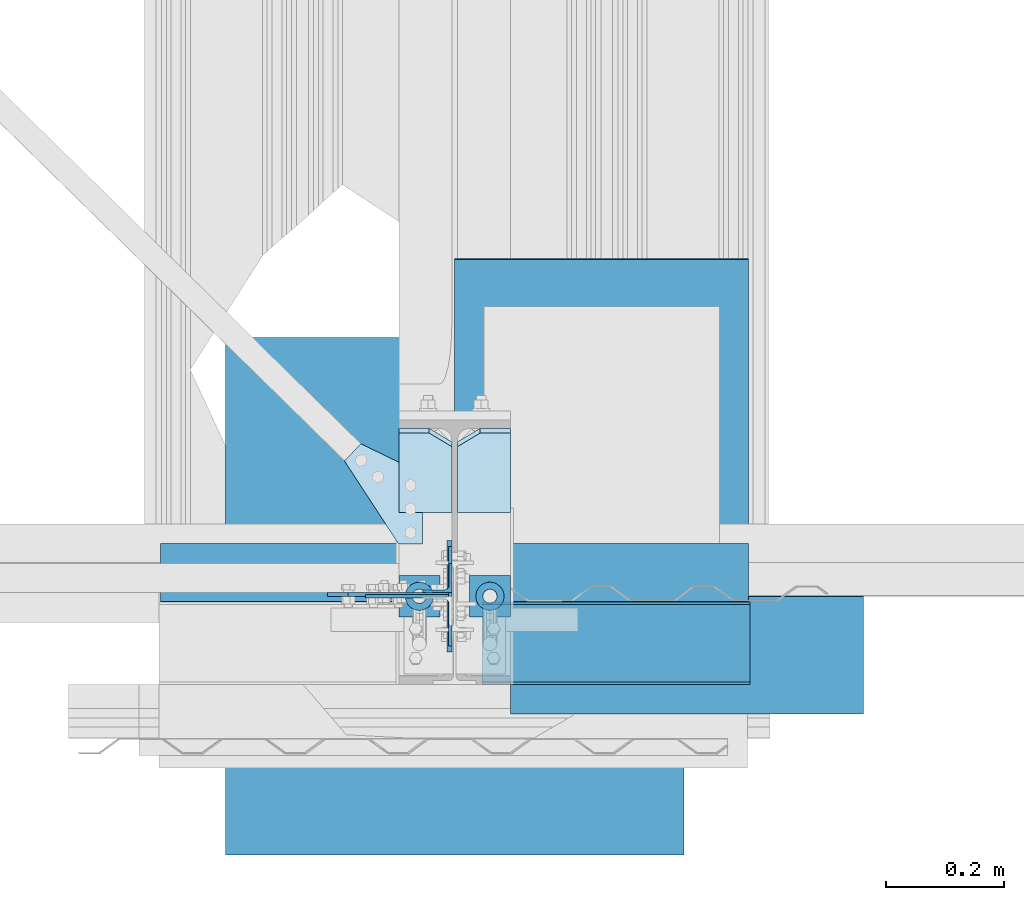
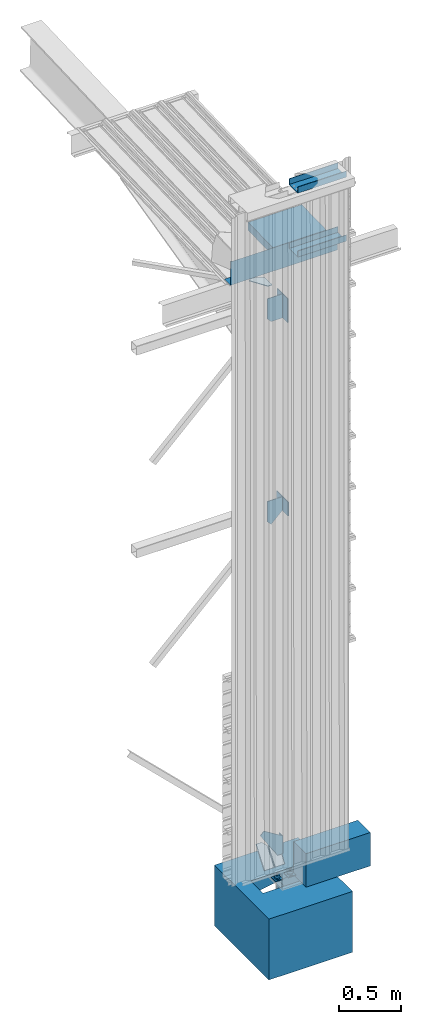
# One storey, part 3 of 21: 12 beams, 8 plates, 1 slab, 4 openings, 1 element without a shape of its own.
"""IFC2X3 building model written with IfcOpenShell, lengths in millimetres."""

import ifcopenshell
import ifcopenshell.guid

model = None  # the IFC model being written
_history = None  # IfcOwnerHistory: only IFC2X3 demands one
_inside = {}  # id of a spatial element -> (the spatial element, [elements in it])
_under = {}  # id of a project, library or spatial element -> (it, [spatial elements below it])
_declared = {}  # id of a project -> (the project, [libraries it declares])
_typed = {}  # id of a type object -> (the type object, [elements of that type])
_made_of = {}  # id of a material, layer set ... -> (it, [elements and type objects made of it])


def new_model(schema):
    """Start an empty IFC model of exactly this schema.

    Asked for "IFC4X3", IfcOpenShell would pick the latest addendum, in which some entities
    have other attributes; the version numbers below select the first issue.
    IFC2X3 requires an IfcOwnerHistory on every rooted entity: one is made here for all.
    """
    global model, _history
    if schema == "IFC4X3":
        model = ifcopenshell.file(schema_version=(4, 3, 0, 0))
    else:
        model = ifcopenshell.file(schema=schema)
    _inside.clear()
    _under.clear()
    _declared.clear()
    _typed.clear()
    _made_of.clear()
    _history = None
    if model.schema == "IFC2X3":
        org = make("IfcOrganization", Name="unknown")
        user = make(
            "IfcPersonAndOrganization",
            ThePerson=make("IfcPerson", FamilyName="unknown"),
            TheOrganization=org,
        )
        app = make(
            "IfcApplication",
            ApplicationDeveloper=org,
            Version="unknown",
            ApplicationFullName="unknown",
            ApplicationIdentifier="unknown",
        )
        _history = make(
            "IfcOwnerHistory",
            OwningUser=user,
            OwningApplication=app,
            ChangeAction="ADDED",
            CreationDate=0,
        )
    return model


def make(cls, **values):
    """One entity of the class cls with the attributes given. An attribute that is None is left unset."""
    return model.create_entity(
        cls, **{name: value for name, value in values.items() if value is not None}
    )


def rooted(cls, **values):
    """An entity with a GlobalId (a new one), such as an element, a storey or a relation."""
    return make(cls, GlobalId=ifcopenshell.guid.new(), OwnerHistory=_history, **values)


def si_unit(unit_type, name, prefix=None):
    """IfcSIUnit, for example si_unit("LENGTHUNIT", "METRE", prefix="MILLI")."""
    return make("IfcSIUnit", UnitType=unit_type, Prefix=prefix, Name=name)


def assignment(units):
    """IfcUnitAssignment: the units of a project."""
    return None if units is None else make("IfcUnitAssignment", Units=units)


def point(xyz):
    """IfcCartesianPoint."""
    return None if xyz is None else make("IfcCartesianPoint", Coordinates=xyz)


def direction(xyz):
    """IfcDirection."""
    return None if xyz is None else make("IfcDirection", DirectionRatios=xyz)


def frame(location, z_axis=None, x_axis=None):
    """IfcAxis2Placement3D, a coordinate frame: its origin and axes. An axis left out is left unset."""
    return make(
        "IfcAxis2Placement3D",
        Location=point(location),
        Axis=direction(z_axis),
        RefDirection=direction(x_axis),
    )


def frame_2d(location, x_axis=None):
    """IfcAxis2Placement2D, a coordinate frame in the plane: its origin and x axis."""
    return make(
        "IfcAxis2Placement2D", Location=point(location), RefDirection=direction(x_axis)
    )


def origin_with_axes():
    """The frame at (0, 0, 0) with the z axis (0, 0, 1) and the x axis (1, 0, 0) written out."""
    return frame((0.0, 0.0, 0.0), z_axis=(0.0, 0.0, 1.0), x_axis=(1.0, 0.0, 0.0))


def origin_2d_with_axis():
    """The frame at (0, 0) in the plane with the x axis (1, 0) written out."""
    return frame_2d((0.0, 0.0), x_axis=(1.0, 0.0))


def place(relative_to, where):
    """IfcLocalPlacement: puts the frame where relative to a parent placement (None: the world)."""
    return make(
        "IfcLocalPlacement", PlacementRelTo=relative_to, RelativePlacement=where
    )


def context(
    kind, dimensions, precision=None, world=None, true_north=None, identifier=None
):
    """IfcGeometricRepresentationContext, for example the 3D "Model" context."""
    return make(
        "IfcGeometricRepresentationContext",
        ContextIdentifier=identifier,
        ContextType=kind,
        CoordinateSpaceDimension=dimensions,
        Precision=precision,
        WorldCoordinateSystem=world,
        TrueNorth=true_north,
    )


def project(units=None, contexts=None):
    """IfcProject with its units and contexts."""
    return rooted(
        "IfcProject",
        Name="project",
        RepresentationContexts=contexts,
        UnitsInContext=assignment(units),
    )


def spatial(cls, under=None, at=None, **own):
    """A site, building, storey or space (cls), placed at a placement, below another one or the project."""
    s = rooted(cls, ObjectPlacement=at, **own)
    if under is not None:
        _under.setdefault(under.id(), (under, []))[1].append(s)
    return s


def polyline(points):
    """IfcPolyline through the points."""
    return make("IfcPolyline", Points=[point(p) for p in points])


def profile(cls, at=None, kind="AREA", **sizes):
    """A parametric profile (cls). Its sizes go by their IFC names, for example OverallWidth=200.0."""
    return make(cls, ProfileType=kind, Position=at, **sizes)


def rectangle(**sizes):
    """IfcRectangleProfileDef."""
    return profile("IfcRectangleProfileDef", **sizes)


def hollow_circle(**sizes):
    """IfcCircleHollowProfileDef."""
    return profile("IfcCircleHollowProfileDef", **sizes)


def l_section(**sizes):
    """IfcLShapeProfileDef."""
    return profile("IfcLShapeProfileDef", **sizes)


def u_section(**sizes):
    """IfcUShapeProfileDef."""
    return profile("IfcUShapeProfileDef", **sizes)


def outline(outer, holes=None, kind="AREA"):
    """IfcArbitraryClosedProfileDef: a profile drawn as a closed curve; with holes, ...WithVoids."""
    if holes is None:
        return make("IfcArbitraryClosedProfileDef", ProfileType=kind, OuterCurve=outer)
    return make(
        "IfcArbitraryProfileDefWithVoids",
        ProfileType=kind,
        OuterCurve=outer,
        InnerCurves=holes,
    )


def extrude(swept, where, along, depth):
    """IfcExtrudedAreaSolid: the profile swept, set in the frame where, extruded along a direction by depth."""
    return make(
        "IfcExtrudedAreaSolid",
        SweptArea=swept,
        Position=where,
        ExtrudedDirection=direction(along),
        Depth=depth,
    )


def clip(a, b, op="DIFFERENCE"):
    """IfcBooleanClippingResult: the solid a cut by the half space b."""
    return make(
        "IfcBooleanClippingResult", Operator=op, FirstOperand=a, SecondOperand=b
    )


def halfspace(plane, agree):
    """IfcHalfSpaceSolid: all space on one side of the plane z = 0 of the frame plane."""
    return make(
        "IfcHalfSpaceSolid",
        BaseSurface=make("IfcPlane", Position=plane),
        AgreementFlag=agree,
    )


def faces_of(points, faces, orient=None, outer=None):
    """IfcFace entities. A face is a list of loops; a loop is a list of indices into points, from 0.

    orient and outer hold one flag for each loop. By default every Orientation is true, the
    first loop of a face is its IfcFaceOuterBound and the others are IfcFaceBound.
    """
    made = []
    for i, loops in enumerate(faces):
        bounds = []
        for j, loop in enumerate(loops):
            is_outer = j == 0 if outer is None else outer[i][j]
            bounds.append(
                make(
                    "IfcFaceOuterBound" if is_outer else "IfcFaceBound",
                    Bound=make("IfcPolyLoop", Polygon=[points[k] for k in loop]),
                    Orientation=True if orient is None else orient[i][j],
                )
            )
        made.append(make("IfcFace", Bounds=bounds))
    return made


def faceted_brep(points, faces, orient=None, outer=None, voids=None):
    """IfcFacetedBrep: a solid bounded by flat faces; with voids (closed shells), ...WithVoids."""
    shared = [point(p) for p in points]
    hull = make("IfcClosedShell", CfsFaces=faces_of(shared, faces, orient, outer))
    if voids is None:
        return make("IfcFacetedBrep", Outer=hull)
    return make(
        "IfcFacetedBrepWithVoids",
        Outer=hull,
        Voids=[
            make(cls, CfsFaces=faces_of(shared, fs, o, b)) for cls, fs, o, b in voids
        ],
    )


def shape(context_of_items, identifier, shape_type, items):
    """IfcShapeRepresentation: the items that make up one representation, for example the "Body"."""
    return make(
        "IfcShapeRepresentation",
        ContextOfItems=context_of_items,
        RepresentationIdentifier=identifier,
        RepresentationType=shape_type,
        Items=items,
    )


def material(Name=None, Category=None):
    """IfcMaterial."""
    return make("IfcMaterial", Name=Name, Category=Category)


def layer(
    of_material, thickness, ventilated=None, Name=None, Category=None, Priority=None
):
    """IfcMaterialLayer: one layer of a wall or slab, of a material (None: an air gap)."""
    return make(
        "IfcMaterialLayer",
        Material=of_material,
        LayerThickness=thickness,
        IsVentilated=ventilated,
        Name=Name,
        Category=Category,
        Priority=Priority,
    )


def layer_set(layers, Name=None):
    """IfcMaterialLayerSet."""
    return make("IfcMaterialLayerSet", MaterialLayers=layers, LayerSetName=Name)


def layer_usage(for_layer_set, set_direction, sense, offset, extent=None):
    """IfcMaterialLayerSetUsage: how a layer set lies in its element."""
    return make(
        "IfcMaterialLayerSetUsage",
        ForLayerSet=for_layer_set,
        LayerSetDirection=set_direction,
        DirectionSense=sense,
        OffsetFromReferenceLine=offset,
        ReferenceExtent=extent,
    )


def made_of(thing, what):
    """Note that an element or type object is made of a material, layer set ...; save() writes the relation."""
    if what is not None:
        _made_of.setdefault(what.id(), (what, []))[1].append(thing)
    return thing


def type_object(cls, material=None, **own):
    """A type object (cls), such as IfcWallType, which elements share."""
    return made_of(rooted(cls, **own), material)


def element(
    cls,
    number,
    at=None,
    inside=None,
    cuts=None,
    type_object=None,
    material=None,
    context=None,
    identifier="Body",
    shape_type=None,
    held_by="IfcProductDefinitionShape",
    body=None,
    shapes=None,
    **own,
):
    """One element of the class cls, such as IfcWall. Its Tag is "e" and its number.

    at: its placement. inside: the storey or other place that contains it. cuts: it is an
    opening in that element (IfcRelVoidsElement). A single representation is given by context,
    identifier, shape_type and body (its items); several are given by shapes. held_by: the class
    of the entity that holds the representations. save() writes the other relations.
    """
    e = rooted(cls, Tag="e%d" % number, ObjectPlacement=at, **own)
    if body is not None:
        shapes = [shape(context, identifier, shape_type, body)]
    if shapes is not None:
        e.Representation = make(held_by, Representations=shapes)
    if inside is not None:
        _inside.setdefault(inside.id(), (inside, []))[1].append(e)
    if cuts is not None:
        rooted(
            "IfcRelVoidsElement", RelatingBuildingElement=cuts, RelatedOpeningElement=e
        )
    if type_object is not None:
        _typed.setdefault(type_object.id(), (type_object, []))[1].append(e)
    return made_of(e, material)


def aggregate(whole, parts):
    """IfcRelAggregates: a whole, such as a stair, and the parts it consists of."""
    return rooted("IfcRelAggregates", RelatingObject=whole, RelatedObjects=parts)


def save(model, path):
    """Write the relations noted so far, then the file.

    IfcRelAggregates (storeys below a building ...), IfcRelContainedInSpatialStructure (elements
    in a storey), IfcRelDefinesByType, IfcRelAssociatesMaterial and IfcRelDeclares: one each for
    every whole, place, type object, material and project.
    """
    for whole, parts in _under.values():
        aggregate(whole, parts)
    for where, things in _inside.values():
        rooted(
            "IfcRelContainedInSpatialStructure",
            RelatedElements=things,
            RelatingStructure=where,
        )
    for kind, things in _typed.values():
        rooted("IfcRelDefinesByType", RelatedObjects=things, RelatingType=kind)
    for what, things in _made_of.values():
        rooted("IfcRelAssociatesMaterial", RelatedObjects=things, RelatingMaterial=what)
    for by, libraries in _declared.values():
        rooted("IfcRelDeclares", RelatingContext=by, RelatedDefinitions=libraries)
    model.write(path)


model = new_model("IFC2X3")

# Units and contexts
model_context_1 = context("Model", 3, precision=1e-05, world=origin_with_axes(), identifier="Body")
model_context_2 = context("Model", 3, precision=1e-05, world=origin_with_axes())
ifc_project = project(units=[si_unit("LENGTHUNIT", "METRE", prefix="MILLI"), si_unit("AREAUNIT", "SQUARE_METRE"), si_unit("VOLUMEUNIT", "CUBIC_METRE"), si_unit("MASSUNIT", "GRAM", prefix="KILO"), si_unit("TIMEUNIT", "SECOND"), si_unit("PLANEANGLEUNIT", "RADIAN"), si_unit("SOLIDANGLEUNIT", "STERADIAN"), si_unit("THERMODYNAMICTEMPERATUREUNIT", "DEGREE_CELSIUS"), si_unit("LUMINOUSINTENSITYUNIT", "LUMEN")], contexts=[model_context_1, model_context_2])

# Site, building, storey
site_placement = place(None, origin_with_axes())
site = spatial("IfcSite", under=ifc_project, at=site_placement, Name="Undefined", CompositionType="ELEMENT")
building_placement = place(site_placement, origin_with_axes())
building = spatial("IfcBuilding", under=site, at=building_placement, Name="Undefined", CompositionType="ELEMENT")
storey_placement = place(building_placement, origin_with_axes())
storey = spatial("IfcBuildingStorey", under=building, at=storey_placement, Name="Undefined", CompositionType="ELEMENT")

# Beams
ifc_material_1 = material(Name="STEEL/S235JR")
beam_type_1 = type_object("IfcBeamType", Name="UPF-140*60*4", PredefinedType="NOTDEFINED")
beam_1_placement = place(storey_placement, frame((-2.3513294, -154.97824, 5929.55), z_axis=(4.4408925e-19, 1.0, 3.1900003e-05), x_axis=(1.0, 0.0, 0.0)))
element("IfcBeam", 1, at=beam_1_placement, inside=storey, type_object=beam_type_1, material=ifc_material_1, Name="lisseBasse", ObjectType="UPF-140*60*4", context=model_context_1, shape_type="Clipping", body=[
    clip(extrude(u_section(Depth=140.0, FlangeWidth=60.0, WebThickness=4.0, FlangeThickness=4.0, at=origin_2d_with_axis()), frame((504.69995, 0.0, 0.0), z_axis=(-1.0, 0.0, 4.8148249e-35), x_axis=(0.0, -1.0, 0.0)), (0.0, 0.0, 1.0), 504.69995), halfspace(frame((48.849949, -30.0, -70.0), z_axis=(-1.0, 0.0, 4.8148249e-35), x_axis=(0.0, 1.0, 0.0)), False)),
])
beam_2_placement = place(storey_placement, frame((-2.3499997, -155.00095, 6560.0), z_axis=(4.4408925e-19, 1.0, 3.1900003e-05), x_axis=(1.0, 0.0, 0.0)))
element("IfcBeam", 2, at=beam_2_placement, inside=storey, type_object=beam_type_1, material=ifc_material_1, Name="lisseBasse", ObjectType="UPF-140*60*4", context=model_context_1, shape_type="Clipping", body=[
    clip(extrude(u_section(Depth=140.0, FlangeWidth=60.0, WebThickness=4.0, FlangeThickness=4.0, at=origin_2d_with_axis()), frame((504.7, -9.094947e-13, 1.9440337e-29), z_axis=(-1.0, 0.0, 4.8148249e-35), x_axis=(0.0, -1.0, 0.0)), (0.0, 0.0, 1.0), 504.7), halfspace(frame((48.85, -30.0, -70.0), z_axis=(-1.0, 0.0, 4.8148249e-35), x_axis=(0.0, 1.0, 0.0)), False)),
])

# Beam, opening
beam_type_2 = type_object("IfcBeamType", Name="500*80", PredefinedType="NOTDEFINED")
beam_3_placement = place(storey_placement, frame((250.0, 498.17077, 5783.1922), z_axis=(-1.4154012e-14, 0.023564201, -0.99972233), x_axis=(-3.4434238e-16, -0.99972233, -0.023564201)))
beam_3 = element("IfcBeam", 3, at=beam_3_placement, inside=storey, type_object=beam_type_2, material=ifc_material_1, Name="isolant", ObjectType="500*80", context=model_context_1, shape_type="SweptSolid", body=[
    extrude(rectangle(XDim=500.0, YDim=80.0, at=origin_2d_with_axis()), frame((577.77369, 5.6972885e-29, -9.1149926e-13), z_axis=(-1.0, 0.0, 4.8148249e-35), x_axis=(0.0, -1.0, 0.0)), (0.0, 0.0, 1.0), 577.77369),
])
opening_1_placement = place(storey_placement, frame((250.0, 498.17077, 5783.1922), z_axis=(-1.4154012e-14, 0.023564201, -0.99972233), x_axis=(-3.4434238e-16, -0.99972233, -0.023564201)))
element("IfcOpeningElement", 4, at=opening_1_placement, cuts=beam_3, ObjectType="Recess", context=model_context_1, shape_type="SweptSolid", body=[
    extrude(outline(polyline([(0.0, 0.0), (62.484066, -5.1159077e-13), (190.41089, 50.883045), (190.65948, 142.81107), (118.26441, 196.28813), (-13.120028, 151.79179), (-85.795715, 84.283401), (-64.894371, 15.904897), (-35.036201, 9.3685446), (-34.326035, 9.609067), (0.0, 0.0)])), frame((490.9405, -74.748467, -37.284731), z_axis=(2.7080366e-07, -0.0012279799, 0.99999925), x_axis=(-0.9471552, 0.32077543, 0.00039416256)), (0.0, 0.0, 1.0), 155.0),
])

# Beams
beam_type_3 = type_object("IfcBeamType", Name="PLAT10*70", PredefinedType="NOTDEFINED")
for number, where, z_axis, x_axis, name in (
    (5, (60.0, -110.0, -280.0), (1.0, 0.0, 0.0), (0.0, 1.0, 0.0), "plaque"),
    (6, (-60.0, -110.0, -280.0), (-1.0, 0.0, 4.8148249e-35), (0.0, 1.0, 0.0), "plaque"),
):
    element("IfcBeam", number, at=place(storey_placement, frame(where, z_axis=z_axis, x_axis=x_axis)), inside=storey, type_object=beam_type_3, material=ifc_material_1, Name=name, ObjectType="PLAT10*70", context=model_context_1, shape_type="SweptSolid", body=[
        extrude(rectangle(XDim=10.0, YDim=70.0, at=origin_2d_with_axis()), frame((70.0, 0.0, -2.5355085e-31), z_axis=(-1.0, 0.0, 4.8148249e-35), x_axis=(0.0, -1.0, 0.0)), (0.0, 0.0, 1.0), 70.0),
    ])
beam_type_4 = type_object("IfcBeamType", Name="PD48*12", PredefinedType="NOTDEFINED")
beam_4_placement = place(storey_placement, frame((60.0, -74.999999, -263.0), z_axis=(0.0, -1.0, 0.0), x_axis=(1.2908193e-13, -1.8000416e-13, -1.0)))
element("IfcBeam", 7, at=beam_4_placement, inside=storey, type_object=beam_type_4, material=ifc_material_1, Name="RONDELLE", ObjectType="PD48*12", context=model_context_1, shape_type="SweptSolid", body=[
    extrude(hollow_circle(Radius=24.0, WallThickness=12.0, at=origin_2d_with_axis()), frame((12.0, 0.0, 0.0), z_axis=(-1.0, 0.0, 4.8148249e-35), x_axis=(0.0, -1.0, 0.0)), (0.0, 0.0, 1.0), 12.0),
])
beam_5_placement = place(storey_placement, frame((-60.0, -74.999999, -239.0), z_axis=(-1.0, 0.0, 4.8148249e-35), x_axis=(1.2908193e-13, -1.8000416e-13, -1.0)))
element("IfcBeam", 8, at=beam_5_placement, inside=storey, type_object=beam_type_4, material=ifc_material_1, Name="ECROU", ObjectType="PD48*12", context=model_context_1, shape_type="SweptSolid", body=[
    extrude(hollow_circle(Radius=24.0, WallThickness=12.0, at=origin_2d_with_axis()), frame((23.999998, 0.0, 0.0), z_axis=(-1.0, 0.0, 4.8148249e-35), x_axis=(0.0, -1.0, 0.0)), (0.0, 0.0, 1.0), 23.999998),
])
beam_6_placement = place(storey_placement, frame((-60.0, -74.999999, -263.0), z_axis=(0.0, -1.0, 0.0), x_axis=(1.2908193e-13, -1.8000416e-13, -1.0)))
element("IfcBeam", 9, at=beam_6_placement, inside=storey, type_object=beam_type_4, material=ifc_material_1, Name="RONDELLE", ObjectType="PD48*12", context=model_context_1, shape_type="SweptSolid", body=[
    extrude(hollow_circle(Radius=24.0, WallThickness=12.0, at=origin_2d_with_axis()), frame((12.0, 0.0, 0.0), z_axis=(-1.0, 0.0, 4.8148249e-35), x_axis=(0.0, -1.0, 0.0)), (0.0, 0.0, 1.0), 12.0),
])
beam_7_placement = place(storey_placement, frame((60.0, -74.999999, -239.0), z_axis=(1.0, 0.0, 0.0), x_axis=(1.2908193e-13, -1.8000416e-13, -1.0)))
element("IfcBeam", 10, at=beam_7_placement, inside=storey, type_object=beam_type_4, material=ifc_material_1, Name="ECROU", ObjectType="PD48*12", context=model_context_1, shape_type="SweptSolid", body=[
    extrude(hollow_circle(Radius=24.0, WallThickness=12.0, at=origin_2d_with_axis()), frame((23.999998, 0.0, 0.0), z_axis=(-1.0, 0.0, 4.8148249e-35), x_axis=(0.0, -1.0, 0.0)), (0.0, 0.0, 1.0), 24.0),
])
ifc_material_2 = material(Name="CONCRETE/C30/37")
beam_type_5 = type_object("IfcBeamType", Name="330*200", PredefinedType="NOTDEFINED")
beam_8_placement = place(storey_placement, frame((95.0, -174.99474, -135.07037), z_axis=(3.4106055e-16, -1.0, -3.1900003e-05), x_axis=(1.0, 0.0, 0.0)))
element("IfcBeam", 11, at=beam_8_placement, inside=storey, type_object=beam_type_5, material=ifc_material_2, Name="massif", ObjectType="330*200", context=model_context_1, shape_type="SweptSolid", body=[
    extrude(rectangle(XDim=330.0, YDim=200.0, at=origin_2d_with_axis()), frame((600.0, 0.0, -1.5715588e-29), z_axis=(-1.0, 0.0, 4.8148249e-35), x_axis=(0.0, -1.0, 0.0)), (0.0, 0.0, 1.0), 600.0),
])
beam_type_6 = type_object("IfcBeamType", Name="1.5*328.5", PredefinedType="NOTDEFINED")
beam_9_placement = place(storey_placement, frame((9.7284539e-06, 15.0, 5728.8385), z_axis=(-1.0, 0.0, 4.8148249e-35), x_axis=(0.0, -1.0, 0.0)))
element("IfcBeam", 12, at=beam_9_placement, inside=storey, type_object=beam_type_6, material=ifc_material_1, Name="costière", ObjectType="1.5*328.5", context=model_context_1, shape_type="Brep", body=[
    faceted_brep([(1.3145041e-13, -0.75, -500.0), (1.1546319e-13, -0.75, 500.0), (-1.2967405e-13, 0.75, 500.0), (-1.1368684e-13, 0.75, -500.0), (98.5, 0.75, 500.0), (98.5, 0.75, -500.0), (100.0, -0.75, 500.0), (100.0, -0.75, -500.0), (98.5, 230.71001, 500.0), (98.5, 230.71001, -500.0), (100.0, 230.71001, 500.0), (100.0, 230.71001, -500.0)], [[[0, 1, 2, 3]], [[3, 2, 4, 5]], [[2, 1, 6, 4]], [[1, 0, 7, 6]], [[0, 3, 5, 7]], [[5, 4, 8, 9]], [[4, 6, 10, 8]], [[6, 7, 11, 10]], [[7, 5, 9, 11]], [[10, 11, 9, 8]]]),
])
beam_type_7 = type_object("IfcBeamType", Name="L50*5", PredefinedType="NOTDEFINED")
beam_10_placement = place(storey_placement, frame((-29.7, -44.00079, 120.58493), z_axis=(-1.0, 0.0, 4.8148249e-35), x_axis=(1.2899234e-13, 3.1900003e-05, -1.0)))
element("IfcBeam", 13, at=beam_10_placement, inside=storey, type_object=beam_type_7, material=ifc_material_1, Name="CV", ObjectType="L50*5", context=model_context_1, shape_type="SweptSolid", body=[
    extrude(l_section(Depth=50.0, Width=50.0, Thickness=5.0, FilletRadius=7.0, EdgeRadius=3.5, at=origin_2d_with_axis()), frame((174.99998, 0.0, -3.5527137e-15), z_axis=(-1.0, 0.0, 4.8148249e-35), x_axis=(0.0, -1.0, 0.0)), (0.0, 0.0, 1.0), 174.99998),
])

# Slab, openings
ifc_layer = layer(ifc_material_2, 600.0)
ifc_layer_set = layer_set([ifc_layer], Name="Floor: Insitu CONCRETE/C30/37 600.000000")
ifc_layer_usage = layer_usage(ifc_layer_set, "AXIS3", "POSITIVE", -300.0)
slab_type = type_object("IfcSlabType", Name="600*780", PredefinedType="NOTDEFINED")
slab_placement = place(storey_placement, frame((-389.98, -514.98, -600.0), z_axis=(0.0, 0.0, 1.0), x_axis=(1.0, 0.0, 0.0)))
slab = element("IfcSlab", 14, at=slab_placement, inside=storey, type_object=slab_type, material=ifc_layer_usage, Name="massif", ObjectType="600*780", PredefinedType="FLOOR", context=model_context_1, shape_type="SweptSolid", body=[
    extrude(outline(polyline([(0.0, 0.0), (779.97998, -1.1368684e-13), (779.97998, 879.94995), (0.0, 879.94995), (0.0, 0.0)])), frame((0.0, 0.0, -300.0), z_axis=(0.0, 0.0, 1.0), x_axis=(1.0, 0.0, 0.0)), (0.0, 0.0, 1.0), 600.0),
])
opening_2_placement = place(storey_placement, frame((-389.98, -514.98, -600.0), z_axis=(0.0, 0.0, 1.0), x_axis=(1.0, 0.0, 0.0)))
element("IfcOpeningElement", 15, at=opening_2_placement, cuts=slab, ObjectType="Recess", context=model_context_1, shape_type="SweptSolid", body=[
    extrude(outline(polyline([(0.0, 0.0), (100.0, -4.5474735e-13), (100.0, 175.95056), (0.0, 0.0)])), frame((139.98, 339.98, 300.0), z_axis=(0.0, 1.0, 0.0), x_axis=(1.0, 0.0, 0.0)), (0.0, 0.0, 1.0), 200.0),
])
opening_3_placement = place(storey_placement, frame((-389.98, -514.98, -600.0), z_axis=(0.0, 0.0, 1.0), x_axis=(1.0, 0.0, 0.0)))
element("IfcOpeningElement", 16, at=opening_3_placement, cuts=slab, ObjectType="Recess", context=model_context_1, shape_type="SweptSolid", body=[
    extrude(outline(polyline([(0.0, 0.0), (200.0, 0.0), (200.0, 300.0), (-1.1368684e-13, 300.0), (0.0, 0.0)])), frame((539.98, 339.98, -150.0), z_axis=(0.0, 0.0, 1.0), x_axis=(0.0, 1.0, 0.0)), (0.0, 0.0, 1.0), 450.0),
])
opening_4_placement = place(storey_placement, frame((-389.98, -514.98, -600.0), z_axis=(0.0, 0.0, 1.0), x_axis=(1.0, 0.0, 0.0)))
element("IfcOpeningElement", 17, at=opening_4_placement, cuts=slab, ObjectType="Recess", context=model_context_1, shape_type="SweptSolid", body=[
    extrude(outline(polyline([(0.0, 0.0), (306.25067, 2.2737368e-13), (486.96259, 60.25507), (515.97058, 235.54549), (423.65552, 403.20682), (221.5126, 360.63831), (43.859589, 466.05746), (3.795872, 266.80176), (-108.54353, 131.09634), (0.0, 0.0)])), frame((539.98001, 1292.476, 230.26984), z_axis=(0.0, -1.0, 0.0), x_axis=(-0.98658227, 0.0, -0.16326491)), (0.0, 0.0, 1.0), 885.0),
])

# Assembly, plates
assembly = element("IfcElementAssembly", 18, inside=storey, Name="POTEAU", PredefinedType="NOTDEFINED")
plate_type_1 = type_object("IfcPlateType", Name="PL10*90.3", PredefinedType="NOTDEFINED")
plate_1_placement = place(storey_placement, frame((4.6999998, 71.0, -282.0), z_axis=(-7.7176487e-14, -0.80000005, 0.59999994), x_axis=(1.0, 0.0, 0.0)))
plate_1 = element("IfcPlate", 19, at=plate_1_placement, type_object=plate_type_1, material=ifc_material_1, Name="RAIDISSEUR", ObjectType="PL10*90.3", context=model_context_1, shape_type="SweptSolid", body=[
    extrude(outline(polyline([(0.0, 0.0), (90.300003, 0.0), (90.300003, 225.66667), (38.599998, 225.66667), (0.0, 187.06667), (0.0, 0.0)])), frame((-4.4408921e-15, -3.5049741e-12, -5.0), z_axis=(0.0, 0.0, 1.0), x_axis=(1.0, 0.0, 0.0)), (0.0, 0.0, 1.0), 10.0),
])
plate_2_placement = place(storey_placement, frame((-4.6999998, 71.0, -282.0), z_axis=(7.7176487e-14, 0.80000005, -0.59999994), x_axis=(-1.0, 0.0, 4.8148249e-35)))
plate_2 = element("IfcPlate", 20, at=plate_2_placement, type_object=plate_type_1, material=ifc_material_1, Name="RAIDISSEUR", ObjectType="PL10*90.3", context=model_context_1, shape_type="SweptSolid", body=[
    extrude(outline(polyline([(0.0, 0.0), (90.300003, 0.0), (90.300003, 225.66667), (38.599998, 225.66667), (0.0, 187.06667), (0.0, 0.0)])), frame((-4.4408921e-15, -3.5049741e-12, -5.0), z_axis=(0.0, 0.0, 1.0), x_axis=(1.0, 0.0, 0.0)), (0.0, 0.0, 1.0), 10.0),
])
aggregate(assembly, [plate_1, plate_2])

# Plates
plate_type_2 = type_object("IfcPlateType", Name="PL8*135.3", PredefinedType="NOTDEFINED")
plate_3_placement = place(storey_placement, frame((-8.7000097, -170.0, 3468.9994), z_axis=(-1.0, 0.0, 4.8148249e-35), x_axis=(0.0, 1.0, 0.0)))
element("IfcPlate", 21, at=plate_3_placement, inside=storey, type_object=plate_type_2, material=ifc_material_1, Name="GOUSSET", ObjectType="PL8*135.3", context=model_context_1, shape_type="SweptSolid", body=[
    extrude(outline(polyline([(0.0, 0.0), (190.0, 0.0), (190.0, 135.314), (-1.912781e-11, 135.314), (0.0, 0.0)])), frame((4.2632564e-13, 0.0, -4.0), z_axis=(0.0, 0.0, 1.0), x_axis=(1.0, 0.0, 0.0)), (0.0, 0.0, 1.0), 8.0),
])
plate_type_3 = type_object("IfcPlateType", Name="PL6*138.7", PredefinedType="NOTDEFINED")
plate_4_placement = place(storey_placement, frame((-4.8007019e-10, -74.999999, 3346.0753), z_axis=(0.0, 1.0, 0.0), x_axis=(-0.71584106, 5.4000003e-06, -0.69826326)))
element("IfcPlate", 22, at=plate_4_placement, inside=storey, type_object=plate_type_3, material=ifc_material_1, Name="GOUSSET", ObjectType="PL6*138.7", context=model_context_1, shape_type="Clipping", body=[
    clip(extrude(outline(polyline([(0.0, 0.0), (162.7494, -4.5474735e-13), (162.74965, 49.999958), (22.556398, 193.72237), (-85.833382, 87.994125), (0.0, 0.0)])), frame((-7.1372202e-11, 5.6388571e-10, -3.0), z_axis=(0.0, 0.0, 1.0), x_axis=(1.0, 0.0, 0.0)), (0.0, 0.0, 1.0), 6.0), halfspace(frame((418.0722, -410.40858, -8.242391e-05), z_axis=(-0.71584106, -0.69826326, 7.5663376e-06), x_axis=(-0.69826326, 0.71584106, -2.3335815e-08)), False)),
])
plate_type_4 = type_object("IfcPlateType", Name="PL6*170", PredefinedType="NOTDEFINED")
plate_5_placement = place(storey_placement, frame((-7.7000097, -160.0, 5468.9994), z_axis=(-1.0, 0.0, 4.8148249e-35), x_axis=(0.0, 1.0, 0.0)))
element("IfcPlate", 23, at=plate_5_placement, inside=storey, type_object=plate_type_4, material=ifc_material_1, Name="GOUSSET", ObjectType="PL6*170", context=model_context_1, shape_type="SweptSolid", body=[
    extrude(outline(polyline([(0.0, 0.0), (170.0, 0.0), (170.00089, 236.57401), (0.0008915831, 236.57401), (0.0, 0.0)])), frame((-7.1372202e-11, 5.6388571e-10, -3.0), z_axis=(0.0, 0.0, 1.0), x_axis=(1.0, 0.0, 0.0)), (0.0, 0.0, 1.0), 6.0),
])
plate_type_5 = type_object("IfcPlateType", Name="PL6*140.7", PredefinedType="NOTDEFINED")
plate_6_placement = place(storey_placement, frame((-8.7879672e-06, -74.999108, 5232.4235), z_axis=(0.0, 1.0, 0.0), x_axis=(-1.0, 2.3175443e-15, 4.0000004e-05)))
element("IfcPlate", 24, at=plate_6_placement, inside=storey, type_object=plate_type_5, material=ifc_material_1, Name="GOUSSET", ObjectType="PL6*140.7", context=model_context_1, shape_type="Clipping", body=[
    clip(extrude(outline(polyline([(0.0, 0.0), (116.50533, 0.0), (151.42009, 35.790451), (151.42815, 236.56982), (0.0094880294, 236.57588), (0.0, 0.0)])), frame((-7.1372202e-11, 5.6388571e-10, -3.0), z_axis=(0.0, 0.0, 1.0), x_axis=(1.0, 0.0, 0.0)), (0.0, 0.0, 1.0), 6.0), halfspace(frame((10.681119, -472.06043, -0.0027326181), z_axis=(-1.0, 4.0000004e-05, 1.5600004e-10), x_axis=(4.0000004e-05, 1.0, 3.9000006e-06)), False)),
])
plate_type_6 = type_object("IfcPlateType", Name="PL6*132.7", PredefinedType="NOTDEFINED")
plate_7_placement = place(storey_placement, frame((-54.889061, 13.438967, 5516.9994), z_axis=(0.0, 0.0, 1.0), x_axis=(0.0, 1.0, 0.0)))
element("IfcPlate", 25, at=plate_7_placement, inside=storey, type_object=plate_type_6, material=ifc_material_1, Name="GOUSSET", ObjectType="PL6*132.7", context=model_context_1, shape_type="SweptSolid", body=[
    extrude(outline(polyline([(0.0, 0.0), (119.9999, 0.0), (170.71555, 104.33866), (141.84146, 132.65361), (0.0, 40.110939), (0.0, 0.0)])), frame((-7.1372202e-11, 5.6388571e-10, -3.0), z_axis=(0.0, 0.0, 1.0), x_axis=(1.0, 0.0, 0.0)), (0.0, 0.0, 1.0), 6.0),
])
plate_type_7 = type_object("IfcPlateType", Name="PL6*210.6", PredefinedType="NOTDEFINED")
plate_8_placement = place(storey_placement, frame((-181.39233, -72.004215, 227.86428), z_axis=(4.4408925e-19, 1.0, 3.1900003e-05), x_axis=(0.8534705, 1.6500002e-05, -0.52114116)))
element("IfcPlate", 26, at=plate_8_placement, inside=storey, type_object=plate_type_7, material=ifc_material_1, Name="GOUSSET", ObjectType="PL6*210.6", context=model_context_1, shape_type="SweptSolid", body=[
    extrude(outline(polyline([(0.0, 0.0), (205.85635, -6.6791017e-13), (297.05603, 149.35735), (255.23601, 174.89323), (-11.144886, 48.742088), (0.0, 0.0)])), frame((-7.1372202e-11, 5.6388571e-10, -3.0), z_axis=(0.0, 0.0, 1.0), x_axis=(1.0, 0.0, 0.0)), (0.0, 0.0, 1.0), 6.0),
])

save(model, "model.ifc")
